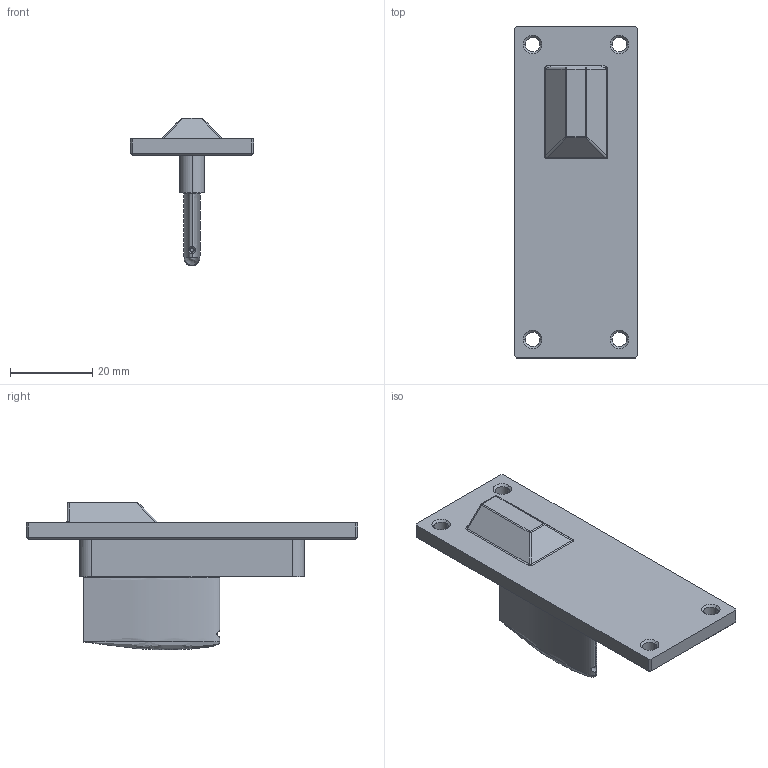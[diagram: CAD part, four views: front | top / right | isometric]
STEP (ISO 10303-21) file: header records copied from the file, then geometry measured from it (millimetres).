
FILE_DESCRIPTION(('CATIA V5 STEP Exchange','CAx-IF Rec.Pracs.--- Model Styling and Organization---1.5--- 2016-08-15','CAx-IF Rec.Pracs.---Supplemental Geometry---1.0---2011-11-01','CAx-IF Rec.Pracs.--- Composite Materials ---1.1---2010-07-15'),'2;1');
FILE_NAME('W:\8-25-003 RENOVATION DEBITMETRE PHI100 A S3\CATIA\Pré-étude\8-25003-Renovation debitmetrie S3MA\S3MA-8-25003-2001--_PEIGNE_DEBIMETRE_PHI_100.stp','2026-02-06T12:56:09+00:00',('none'),('none'),'CATIA Version 5-6 Release 2020 SP6 HF13','CATIA V5 STEP AP214 v2','none');
FILE_SCHEMA(('AUTOMOTIVE_DESIGN { 1 0 10303 214 1 1 1 1 }'));
Length unit declared in the file: millimetre
Products named in the file (1): S3MA-8-25003-2001--_PEIGNE_DEBIMETRE_PHI_100
Bounding box: 30 x 80.5 x 35.75 mm (x, y, z)
Volume: 13723.5 mm3; surface area: 8827.5 mm2
Topology: 1 solids, 1 shells, 153 faces, 344 edges, 191 vertices
Faces by surface type: cylinder 62, plane 47, torus 21, cone 10, bspline 6, sphere 4, extrusion 2, revolution 1
Entity records: 7886 total; most frequent: CARTESIAN_POINT 4733, ORIENTED_EDGE 678, DIRECTION 537, EDGE_CURVE 339, AXIS2_PLACEMENT_3D 253, VERTEX_POINT 191, VECTOR 169, LINE 167
